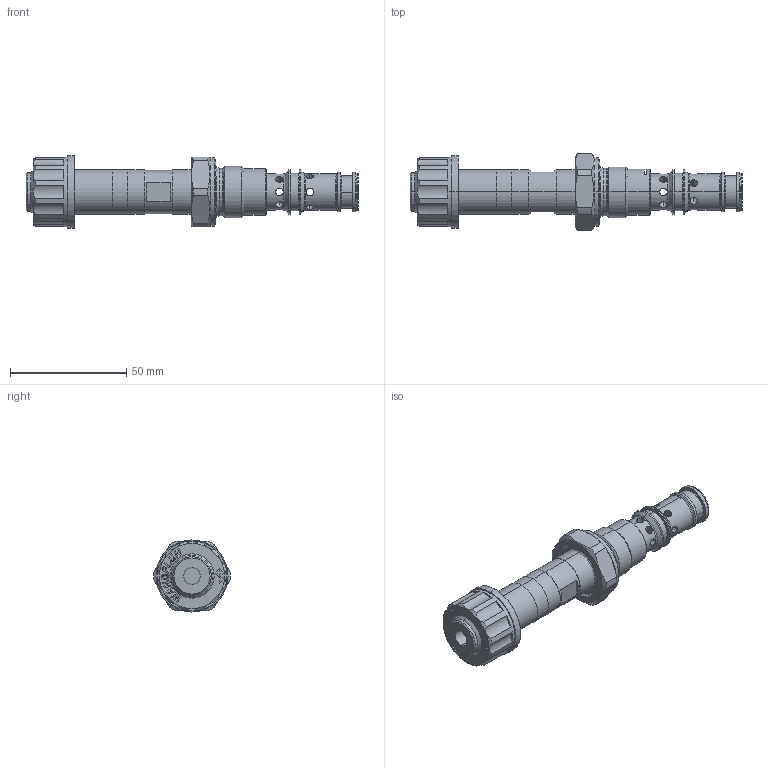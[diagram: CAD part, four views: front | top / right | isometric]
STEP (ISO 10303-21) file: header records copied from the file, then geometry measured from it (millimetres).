
FILE_DESCRIPTION (( 'STEP AP214' ), '1' );
FILE_NAME ('MQPPM22.STEP', '2014-03-19T09:48:12', ( '' ), ( '' ), 'SwSTEP 2.0', 'SolidWorks 2012', '' );
FILE_SCHEMA (( 'AUTOMOTIVE_DESIGN' ));
Length unit declared in the file: millimetre
Products named in the file (1): MQPPM22
Bounding box: 142.6 x 32.98 x 31 mm (x, y, z)
Volume: 45814.8 mm3; surface area: 21370.7 mm2
Topology: 5 solids, 7 shells, 487 faces, 1155 edges, 702 vertices
Faces by surface type: plane 172, cylinder 154, cone 81, torus 64, bspline 16
Entity records: 21271 total; most frequent: CARTESIAN_POINT 4685, DIRECTION 2350, ORIENTED_EDGE 2306, EDGE_CURVE 1153, AXIS2_PLACEMENT_3D 904, VERTEX_POINT 702, EDGE_LOOP 543, LINE 542
